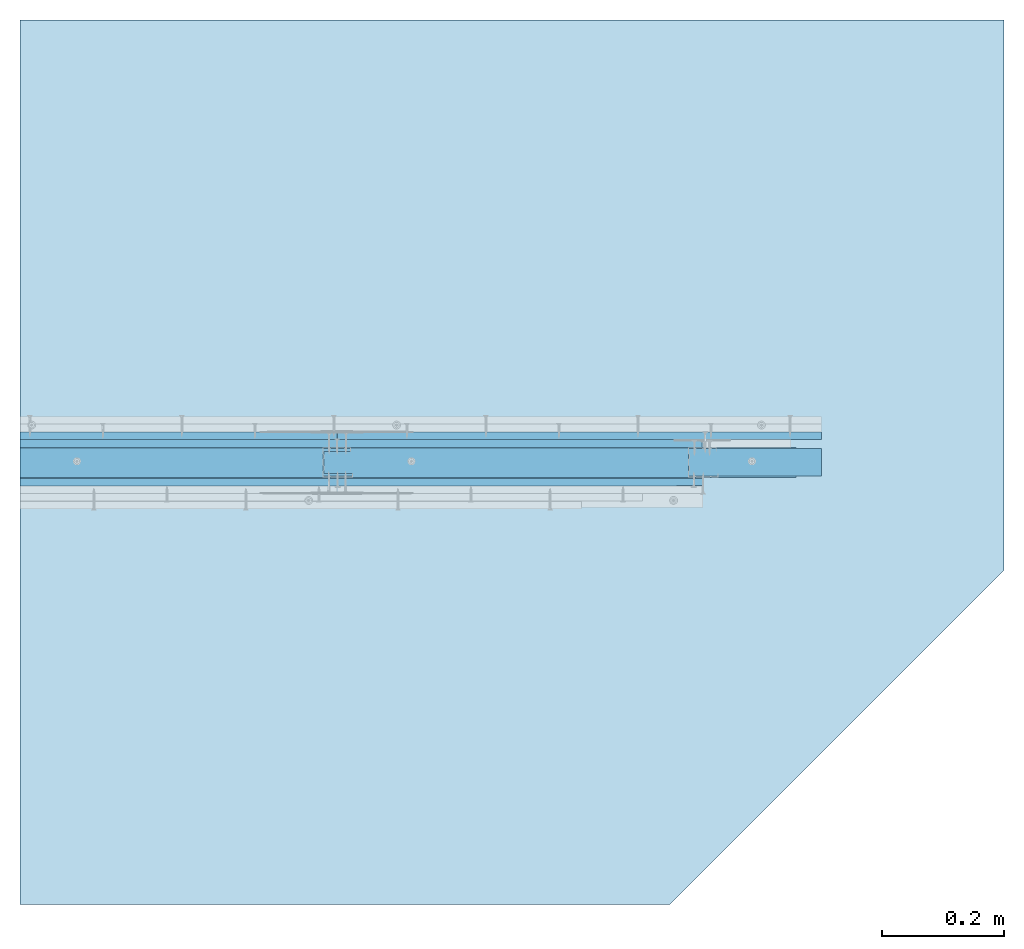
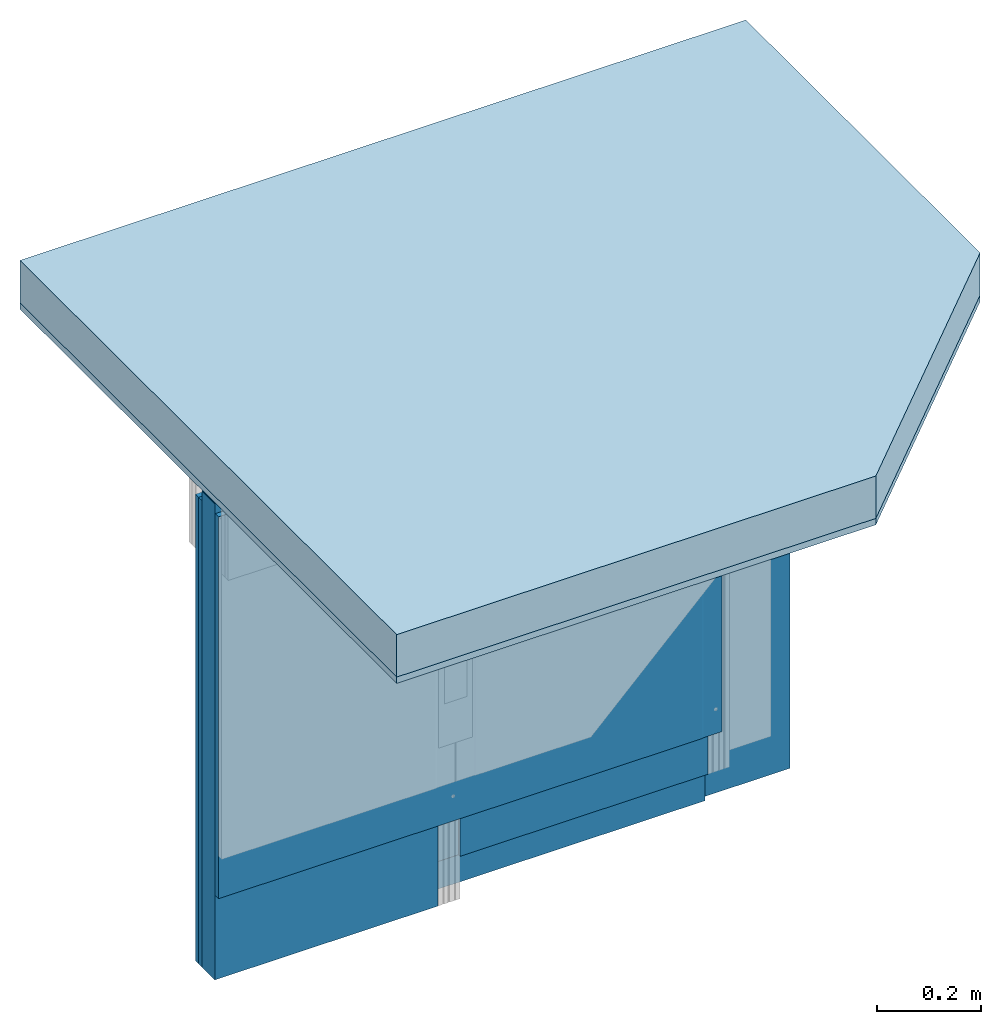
# One storey, part 1 of 60: 8 walls, 2 slabs.
"""IFC2X3 building model written with IfcOpenShell, lengths in millimetres."""

import ifcopenshell
import ifcopenshell.guid

model = None  # the IFC model being written
_history = None  # IfcOwnerHistory: only IFC2X3 demands one
_inside = {}  # id of a spatial element -> (the spatial element, [elements in it])
_under = {}  # id of a project, library or spatial element -> (it, [spatial elements below it])
_declared = {}  # id of a project -> (the project, [libraries it declares])
_typed = {}  # id of a type object -> (the type object, [elements of that type])
_made_of = {}  # id of a material, layer set ... -> (it, [elements and type objects made of it])


def new_model(schema):
    """Start an empty IFC model of exactly this schema.

    Asked for "IFC4X3", IfcOpenShell would pick the latest addendum, in which some entities
    have other attributes; the version numbers below select the first issue.
    IFC2X3 requires an IfcOwnerHistory on every rooted entity: one is made here for all.
    """
    global model, _history
    if schema == "IFC4X3":
        model = ifcopenshell.file(schema_version=(4, 3, 0, 0))
    else:
        model = ifcopenshell.file(schema=schema)
    _inside.clear()
    _under.clear()
    _declared.clear()
    _typed.clear()
    _made_of.clear()
    _history = None
    if model.schema == "IFC2X3":
        org = make("IfcOrganization", Name="unknown")
        user = make(
            "IfcPersonAndOrganization",
            ThePerson=make("IfcPerson", FamilyName="unknown"),
            TheOrganization=org,
        )
        app = make(
            "IfcApplication",
            ApplicationDeveloper=org,
            Version="unknown",
            ApplicationFullName="unknown",
            ApplicationIdentifier="unknown",
        )
        _history = make(
            "IfcOwnerHistory",
            OwningUser=user,
            OwningApplication=app,
            ChangeAction="ADDED",
            CreationDate=0,
        )
    return model


def make(cls, **values):
    """One entity of the class cls with the attributes given. An attribute that is None is left unset."""
    return model.create_entity(
        cls, **{name: value for name, value in values.items() if value is not None}
    )


def entity(cls, *values):
    """Any entity or typed value of the class cls, its attributes in the order of the schema. None: left unset."""
    e = model.create_entity(cls)
    for i, value in enumerate(values):
        if value is not None:
            e[i] = value
    return e


def rooted(cls, **values):
    """An entity with a GlobalId (a new one), such as an element, a storey or a relation."""
    return make(cls, GlobalId=ifcopenshell.guid.new(), OwnerHistory=_history, **values)


def si_unit(unit_type, name, prefix=None):
    """IfcSIUnit, for example si_unit("LENGTHUNIT", "METRE", prefix="MILLI")."""
    return make("IfcSIUnit", UnitType=unit_type, Prefix=prefix, Name=name)


def converted_unit(unit_type, name, factor, base, dimensions=None, offset=None):
    """IfcConversionBasedUnit, such as the inch: factor (a typed value) times the base unit."""
    return make(
        "IfcConversionBasedUnit"
        if offset is None
        else "IfcConversionBasedUnitWithOffset",
        ConversionOffset=offset,
        Dimensions=None
        if dimensions is None
        else entity("IfcDimensionalExponents", *dimensions),
        UnitType=unit_type,
        Name=name,
        ConversionFactor=make(
            "IfcMeasureWithUnit", ValueComponent=factor, UnitComponent=base
        ),
    )


def assignment(units):
    """IfcUnitAssignment: the units of a project."""
    return None if units is None else make("IfcUnitAssignment", Units=units)


def point(xyz):
    """IfcCartesianPoint."""
    return None if xyz is None else make("IfcCartesianPoint", Coordinates=xyz)


def direction(xyz):
    """IfcDirection."""
    return None if xyz is None else make("IfcDirection", DirectionRatios=xyz)


def frame(location, z_axis=None, x_axis=None):
    """IfcAxis2Placement3D, a coordinate frame: its origin and axes. An axis left out is left unset."""
    return make(
        "IfcAxis2Placement3D",
        Location=point(location),
        Axis=direction(z_axis),
        RefDirection=direction(x_axis),
    )


def origin():
    """The frame at (0, 0, 0) with its axes left unset."""
    return frame((0.0, 0.0, 0.0))


def origin_with_axes():
    """The frame at (0, 0, 0) with the z axis (0, 0, 1) and the x axis (1, 0, 0) written out."""
    return frame((0.0, 0.0, 0.0), z_axis=(0.0, 0.0, 1.0), x_axis=(1.0, 0.0, 0.0))


def place(relative_to, where):
    """IfcLocalPlacement: puts the frame where relative to a parent placement (None: the world)."""
    return make(
        "IfcLocalPlacement", PlacementRelTo=relative_to, RelativePlacement=where
    )


def context(
    kind, dimensions, precision=None, world=None, true_north=None, identifier=None
):
    """IfcGeometricRepresentationContext, for example the 3D "Model" context."""
    return make(
        "IfcGeometricRepresentationContext",
        ContextIdentifier=identifier,
        ContextType=kind,
        CoordinateSpaceDimension=dimensions,
        Precision=precision,
        WorldCoordinateSystem=world,
        TrueNorth=true_north,
    )


def project(units=None, contexts=None):
    """IfcProject with its units and contexts."""
    return rooted(
        "IfcProject",
        Name="project",
        RepresentationContexts=contexts,
        UnitsInContext=assignment(units),
    )


def spatial(cls, under=None, at=None, **own):
    """A site, building, storey or space (cls), placed at a placement, below another one or the project."""
    s = rooted(cls, ObjectPlacement=at, **own)
    if under is not None:
        _under.setdefault(under.id(), (under, []))[1].append(s)
    return s


def faces_of(points, faces, orient=None, outer=None):
    """IfcFace entities. A face is a list of loops; a loop is a list of indices into points, from 0.

    orient and outer hold one flag for each loop. By default every Orientation is true, the
    first loop of a face is its IfcFaceOuterBound and the others are IfcFaceBound.
    """
    made = []
    for i, loops in enumerate(faces):
        bounds = []
        for j, loop in enumerate(loops):
            is_outer = j == 0 if outer is None else outer[i][j]
            bounds.append(
                make(
                    "IfcFaceOuterBound" if is_outer else "IfcFaceBound",
                    Bound=make("IfcPolyLoop", Polygon=[points[k] for k in loop]),
                    Orientation=True if orient is None else orient[i][j],
                )
            )
        made.append(make("IfcFace", Bounds=bounds))
    return made


def faceted_brep(points, faces, orient=None, outer=None, voids=None):
    """IfcFacetedBrep: a solid bounded by flat faces; with voids (closed shells), ...WithVoids."""
    shared = [point(p) for p in points]
    hull = make("IfcClosedShell", CfsFaces=faces_of(shared, faces, orient, outer))
    if voids is None:
        return make("IfcFacetedBrep", Outer=hull)
    return make(
        "IfcFacetedBrepWithVoids",
        Outer=hull,
        Voids=[
            make(cls, CfsFaces=faces_of(shared, fs, o, b)) for cls, fs, o, b in voids
        ],
    )


def shape(context_of_items, identifier, shape_type, items):
    """IfcShapeRepresentation: the items that make up one representation, for example the "Body"."""
    return make(
        "IfcShapeRepresentation",
        ContextOfItems=context_of_items,
        RepresentationIdentifier=identifier,
        RepresentationType=shape_type,
        Items=items,
    )


def made_of(thing, what):
    """Note that an element or type object is made of a material, layer set ...; save() writes the relation."""
    if what is not None:
        _made_of.setdefault(what.id(), (what, []))[1].append(thing)
    return thing


def element(
    cls,
    number,
    at=None,
    inside=None,
    cuts=None,
    type_object=None,
    material=None,
    context=None,
    identifier="Body",
    shape_type=None,
    held_by="IfcProductDefinitionShape",
    body=None,
    shapes=None,
    **own,
):
    """One element of the class cls, such as IfcWall. Its Tag is "e" and its number.

    at: its placement. inside: the storey or other place that contains it. cuts: it is an
    opening in that element (IfcRelVoidsElement). A single representation is given by context,
    identifier, shape_type and body (its items); several are given by shapes. held_by: the class
    of the entity that holds the representations. save() writes the other relations.
    """
    e = rooted(cls, Tag="e%d" % number, ObjectPlacement=at, **own)
    if body is not None:
        shapes = [shape(context, identifier, shape_type, body)]
    if shapes is not None:
        e.Representation = make(held_by, Representations=shapes)
    if inside is not None:
        _inside.setdefault(inside.id(), (inside, []))[1].append(e)
    if cuts is not None:
        rooted(
            "IfcRelVoidsElement", RelatingBuildingElement=cuts, RelatedOpeningElement=e
        )
    if type_object is not None:
        _typed.setdefault(type_object.id(), (type_object, []))[1].append(e)
    return made_of(e, material)


def aggregate(whole, parts):
    """IfcRelAggregates: a whole, such as a stair, and the parts it consists of."""
    return rooted("IfcRelAggregates", RelatingObject=whole, RelatedObjects=parts)


def save(model, path):
    """Write the relations noted so far, then the file.

    IfcRelAggregates (storeys below a building ...), IfcRelContainedInSpatialStructure (elements
    in a storey), IfcRelDefinesByType, IfcRelAssociatesMaterial and IfcRelDeclares: one each for
    every whole, place, type object, material and project.
    """
    for whole, parts in _under.values():
        aggregate(whole, parts)
    for where, things in _inside.values():
        rooted(
            "IfcRelContainedInSpatialStructure",
            RelatedElements=things,
            RelatingStructure=where,
        )
    for kind, things in _typed.values():
        rooted("IfcRelDefinesByType", RelatedObjects=things, RelatingType=kind)
    for what, things in _made_of.values():
        rooted("IfcRelAssociatesMaterial", RelatedObjects=things, RelatingMaterial=what)
    for by, libraries in _declared.values():
        rooted("IfcRelDeclares", RelatingContext=by, RelatedDefinitions=libraries)
    model.write(path)


model = new_model("IFC2X3")

# Units and contexts
model_context = context("Model", 3, precision=1e-05, world=origin(), true_north=direction((0.0, 1.0, 0.0)))
ifc_project = project(units=[si_unit("LENGTHUNIT", "METRE", prefix="MILLI"), si_unit("AREAUNIT", "SQUARE_METRE"), si_unit("VOLUMEUNIT", "CUBIC_METRE"), converted_unit("PLANEANGLEUNIT", "DEGREE", entity("IfcPlaneAngleMeasure", 0.01745), si_unit("PLANEANGLEUNIT", "RADIAN"), dimensions=[0, 0, 0, 0, 0, 0, 0]), si_unit("SOLIDANGLEUNIT", "STERADIAN"), si_unit("MASSUNIT", "GRAM"), si_unit("TIMEUNIT", "SECOND"), si_unit("THERMODYNAMICTEMPERATUREUNIT", "DEGREE_CELSIUS"), si_unit("LUMINOUSINTENSITYUNIT", "LUMEN")], contexts=[model_context])

# Site, building, storey
site_placement = place(None, origin_with_axes())
site = spatial("IfcSite", under=ifc_project, at=site_placement, Name="Default Site", CompositionType="ELEMENT")
building_placement = place(site_placement, origin_with_axes())
building = spatial("IfcBuilding", under=site, at=building_placement, Name="Default Building", CompositionType="ELEMENT")
storey_placement = place(building_placement, origin_with_axes())
storey = spatial("IfcBuildingStorey", under=building, at=storey_placement, Name="Default Building Storey", CompositionType="ELEMENT", Elevation=0.0)

# Slabs
slab_1_placement = place(storey_placement, frame((3516.951496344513, -1290.142300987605, 1402.224461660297), z_axis=(7.620176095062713e-14, 6.858158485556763e-13, -1.0), x_axis=(1.0, 9.714451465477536e-17, 7.62017609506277e-14)))
element("IfcSlab", 1, at=slab_1_placement, inside=storey, Name="STROP", context=model_context, shape_type="Brep", body=[
    faceted_brep([(226.0891218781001, -3110.283223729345, -4.200000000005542), (-323.9108781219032, -2560.283223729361, -4.200000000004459), (-323.9108781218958, -2560.283223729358, -104.1999999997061), (226.0891218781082, -3110.283223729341, -104.199999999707), (-1391.926362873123, -2560.283223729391, -104.2000000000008), (-1391.92636287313, -2560.28322372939, -4.20000000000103), (-1391.926362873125, -4014.87455750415, -104.1999999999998), (226.0891218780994, -4014.874557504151, -104.1999999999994), (-1391.926362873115, -4014.874557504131, -4.199999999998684), (226.0891218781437, -4014.874557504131, -4.200000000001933)], [[[0, 1, 2, 3]], [[4, 2, 1, 5]], [[6, 7, 3, 2, 4]], [[8, 5, 1, 0, 9]], [[0, 3, 7, 9]], [[6, 8, 9, 7]], [[6, 4, 5, 8]]]),
])
slab_2_placement = place(storey_placement, frame((3516.95149634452, -1290.142300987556, 1302.224461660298), z_axis=(7.620176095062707e-14, 6.858158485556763e-13, -1.0), x_axis=(1.0, 9.714451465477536e-17, 7.62017609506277e-14)))
element("IfcSlab", 2, at=slab_2_placement, inside=storey, Name="TYNK", context=model_context, shape_type="Brep", body=[
    faceted_brep([(226.0891218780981, -3110.283223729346, -89.20000000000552), (-323.9108781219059, -2560.283223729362, -89.2000000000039), (-323.9108781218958, -2560.283223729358, -104.1999999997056), (226.0891218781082, -3110.283223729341, -104.1999999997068), (-1391.926362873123, -2560.283223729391, -104.2000000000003), (-1391.926362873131, -2560.283223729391, -89.20000000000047), (-1391.926362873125, -4014.87455750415, -104.1999999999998), (226.0891218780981, -4014.874557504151, -104.1999999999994), (-1391.926362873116, -4014.874557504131, -89.19999999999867), (226.0891218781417, -4014.874557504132, -89.2000000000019)], [[[0, 1, 2, 3]], [[4, 2, 1, 5]], [[6, 7, 3, 2, 4]], [[8, 5, 1, 0, 9]], [[0, 3, 7, 9]], [[6, 8, 9, 7]], [[6, 4, 5, 8]]]),
])

# Walls
wall_1_placement = place(storey_placement, frame((3247.741854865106, 5452.42414647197, 1385.418092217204), z_axis=(6.44634805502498e-14, -6.858158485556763e-13, -1.0), x_axis=(1.0, -1.14833748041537e-16, 9.007748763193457e-14)))
element("IfcWall", 3, at=wall_1_placement, inside=storey, Name="Taśma uszczelniająca piankowa RIGIPS", context=model_context, shape_type="Brep", body=[
    faceted_brep([(-1122.716721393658, 3477.783223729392, -5.000000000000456), (-1122.716721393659, 3477.862841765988, -6.00636944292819), (-1122.716721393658, 3432.691889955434, -5.864971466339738), (-1122.716721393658, 3432.783223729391, -5.000000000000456), (195.2987633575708, 3477.862841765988, -6.006369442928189), (195.2987633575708, 3477.783223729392, -5.000000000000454), (195.2987633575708, 3432.783223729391, -5.000000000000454), (195.2987633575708, 3432.691889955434, -5.864971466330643)], [[[0, 1, 2, 3]], [[4, 5, 6, 7]], [[5, 0, 3, 6]], [[6, 3, 2, 7]], [[7, 2, 1, 4]], [[4, 1, 0, 5]]]),
])
wall_2_placement = place(storey_placement, frame((3246.843862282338, 2022.140922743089, -39.13257794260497), z_axis=(0.0, 0.0, -1.0), x_axis=(-1.0, -8.049116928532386e-16, 0.0)))
element("IfcWall", 4, at=wall_2_placement, inside=storey, Name="Płyta gipsowo-kartonowa RIGIPS PRO (4PRO™)", context=model_context, shape_type="Brep", body=[
    faceted_brep([(1121.818728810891, 12.50000000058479, -305.5554579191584), (1121.818728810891, -3.609557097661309e-13, -305.5554579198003), (1121.818728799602, 3.495134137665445e-09, -1405.557039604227), (1121.818728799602, 12.50000000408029, -1405.557039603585), (44.99999999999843, 12.50000000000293, -305.5554579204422), (44.99999999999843, 12.50000000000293, -1405.557039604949), (40.99999999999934, 11.50000000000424, -305.5554579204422), (40.99999999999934, 11.50000000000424, -1405.557039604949), (0.9999999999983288, 11.5000000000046, -305.5554579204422), (0.9999999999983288, 11.5000000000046, -1405.557039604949), (0.7411809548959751, 11.46592582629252, -305.5554579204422), (0.7411809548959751, 11.46592582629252, -1405.557039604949), (0.4999999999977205, 11.3660254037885, -305.5554579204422), (0.4999999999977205, 11.3660254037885, -1405.557039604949), (0.29289321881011, 11.20710678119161, -305.5554579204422), (0.29289321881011, 11.20710678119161, -1405.557039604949), (0.1339745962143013, 11.00000000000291, -305.5554579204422), (0.1339745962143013, 11.00000000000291, -1405.557039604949), (0.03407417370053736, 10.7588190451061, -305.5554579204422), (0.03407417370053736, 10.7588190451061, -1405.557039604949), (-2.887645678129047e-12, 10.50000000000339, -305.5554579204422), (-2.887645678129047e-12, 10.50000000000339, -1405.557039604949), (0.0, 0.0, -305.5554579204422), (0.0, 0.0, -1405.557039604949)], [[[0, 1, 2, 3]], [[4, 0, 3, 5]], [[6, 4, 5, 7]], [[8, 6, 7, 9]], [[10, 8, 9, 11]], [[12, 10, 11, 13]], [[14, 12, 13, 15]], [[16, 14, 15, 17]], [[18, 16, 17, 19]], [[20, 18, 19, 21]], [[22, 20, 21, 23]], [[1, 22, 23, 2]], [[2, 23, 21, 19, 17, 15, 13, 11, 9, 7, 5, 3]], [[0, 4, 6, 8, 10, 12, 14, 16, 18, 20, 22, 1]]]),
])
wall_3_placement = place(storey_placement, frame((3207.215400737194, 5452.42414647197, 1385.418092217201), z_axis=(6.446348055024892e-14, -6.858158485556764e-13, -1.0), x_axis=(1.0, -1.14833748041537e-16, 9.00774876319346e-14)))
element("IfcWall", 5, at=wall_3_placement, inside=storey, Name="Profil RIGIPS UW 50 ULTRASTIL®", context=model_context, shape_type="Brep", body=[
    faceted_brep([(-943.956929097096, 3470.476261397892, -4.901701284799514), (-943.956929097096, 3470.287116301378, -4.783410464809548), (-943.956929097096, 3470.128902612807, -4.626130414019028), (-1082.190267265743, 3470.128902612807, -4.626130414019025), (-1082.190267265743, 3470.476261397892, -4.901701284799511), (-943.956929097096, 3470.063927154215, -4.535249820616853), (-943.956929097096, 3470.009494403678, -4.437688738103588), (-1082.190267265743, 3470.009494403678, -4.437688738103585), (-943.956929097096, 3440.279331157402, -4.783410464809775), (-943.956929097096, 3440.090186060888, -4.901701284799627), (-943.956929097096, 3439.87952304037, -4.97511570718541), (-1082.190267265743, 3439.87952304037, -4.975115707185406), (-1082.190267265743, 3440.279331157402, -4.783410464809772), (-943.9569290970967, 3440.819375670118, -2.866589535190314), (-943.9569290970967, 3441.008520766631, -2.748298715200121), (-943.9569290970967, 3441.219183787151, -2.674884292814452), (-1082.190267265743, 3441.219183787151, -2.67488429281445), (-1082.190267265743, 3440.819375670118, -2.866589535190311), (-943.9569290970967, 3469.55792669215, -2.74829871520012), (-943.9569290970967, 3469.747071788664, -2.866589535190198), (-943.9569290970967, 3469.905285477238, -3.023869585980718), (-1082.190267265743, 3469.905285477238, -3.023869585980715), (-1082.190267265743, 3469.55792669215, -2.748298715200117), (-1082.190267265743, 3479.733223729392, 35.00000000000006), (-1082.190267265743, 3480.283223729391, 35.00000000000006), (-1082.190267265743, 3480.283223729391, -4.199999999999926), (-1082.190267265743, 3480.273374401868, -4.325147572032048), (-1082.190267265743, 3480.244068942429, -4.447213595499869), (-1082.190267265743, 3480.196028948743, -4.563192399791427), (-1082.190267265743, 3480.130437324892, -4.670228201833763), (-1082.190267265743, 3480.048909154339, -4.765685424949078), (-1082.190267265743, 3479.953451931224, -4.847213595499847), (-1082.190267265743, 3479.846416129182, -4.912805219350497), (-1082.190267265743, 3479.73043732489, -4.960845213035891), (-1082.190267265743, 3479.608371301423, -4.99015067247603), (-1082.190267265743, 3479.483223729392, -4.999999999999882), (-1082.190267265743, 3470.908620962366, -4.999999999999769), (-1082.190267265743, 3470.686924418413, -4.975115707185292), (-1082.190267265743, 3469.680725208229, -3.762311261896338), (-1082.190267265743, 3469.561316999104, -3.573869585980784), (-1082.190267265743, 3469.403103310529, -3.416589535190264), (-1082.190267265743, 3469.213958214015, -3.298298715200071), (-1082.190267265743, 3469.003295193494, -3.224884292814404), (-1082.190267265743, 3468.781598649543, -3.199999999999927), (-1082.190267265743, 3441.78484880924, -3.199999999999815), (-1082.190267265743, 3441.563152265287, -3.224884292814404), (-1082.190267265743, 3441.352489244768, -3.298298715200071), (-1082.190267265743, 3441.163344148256, -3.416589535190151), (-1082.190267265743, 3441.005130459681, -3.573869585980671), (-1082.190267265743, 3440.885722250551, -3.762311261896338), (-1082.190267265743, 3440.556953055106, -4.437688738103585), (-1082.190267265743, 3440.437544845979, -4.626130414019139), (-1082.190267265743, 3439.657826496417, -4.999999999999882), (-1082.190267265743, 3431.083223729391, -4.999999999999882), (-1082.190267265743, 3430.95807615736, -4.990150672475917), (-1082.190267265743, 3430.83601013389, -4.960845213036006), (-1082.190267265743, 3430.720031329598, -4.912805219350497), (-1082.190267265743, 3430.612995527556, -4.847213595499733), (-1082.190267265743, 3430.51753830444, -4.765685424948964), (-1082.190267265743, 3430.436010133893, -4.670228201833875), (-1082.190267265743, 3430.370418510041, -4.563192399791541), (-1082.190267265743, 3430.322378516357, -4.447213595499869), (-1082.190267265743, 3430.293073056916, -4.325147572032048), (-1082.190267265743, 3430.283223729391, -4.199999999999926), (-1082.190267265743, 3430.283223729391, 35.00000000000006), (-1082.190267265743, 3430.833223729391, 35.00000000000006), (-1082.190267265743, 3430.833223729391, -4.199999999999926), (-1082.190267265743, 3430.836301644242, -4.23910861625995), (-1082.190267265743, 3430.845459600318, -4.27725424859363), (-1082.190267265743, 3430.860472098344, -4.313497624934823), (-1082.190267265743, 3430.880969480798, -4.346946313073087), (-1082.190267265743, 3430.906447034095, -4.376776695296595), (-1082.190267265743, 3430.936277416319, -4.402254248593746), (-1082.190267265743, 3430.969726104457, -4.422751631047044), (-1082.190267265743, 3431.005969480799, -4.437764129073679), (-1082.190267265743, 3431.044115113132, -4.44692208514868), (-1082.190267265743, 3431.083223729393, -4.449999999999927), (-1082.190267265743, 3439.313858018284, -4.45000000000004), (-1082.190267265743, 3439.535554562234, -4.425115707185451), (-1082.190267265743, 3439.746217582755, -4.351701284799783), (-1082.190267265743, 3439.935362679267, -4.233410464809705), (-1082.190267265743, 3440.093576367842, -4.076130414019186), (-1082.190267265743, 3440.212984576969, -3.887688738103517), (-1082.190267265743, 3440.541753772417, -3.212311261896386), (-1082.190267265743, 3440.661161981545, -3.02386958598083), (-1082.190267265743, 3441.440880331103, -2.649999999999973), (-1082.190267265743, 3469.125567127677, -2.649999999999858), (-1082.190267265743, 3469.347263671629, -2.674884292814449), (-1082.190267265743, 3470.024693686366, -3.212311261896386), (-1082.190267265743, 3470.353462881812, -3.887688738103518), (-1082.190267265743, 3470.472871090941, -4.076130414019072), (-1082.190267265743, 3470.631084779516, -4.233410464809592), (-1082.190267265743, 3470.820229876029, -4.351701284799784), (-1082.190267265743, 3471.030892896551, -4.425115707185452), (-1082.190267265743, 3471.252589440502, -4.449999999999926), (-1082.190267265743, 3479.483223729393, -4.449999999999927), (-1082.190267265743, 3479.522332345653, -4.446922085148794), (-1082.190267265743, 3479.560477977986, -4.437764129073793), (-1082.190267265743, 3479.596721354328, -4.422751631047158), (-1082.190267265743, 3479.630170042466, -4.402254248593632), (-1082.190267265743, 3479.660000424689, -4.376776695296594), (-1082.190267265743, 3479.685477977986, -4.346946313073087), (-1082.190267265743, 3479.705975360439, -4.313497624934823), (-1082.190267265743, 3479.720987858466, -4.27725424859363), (-1082.190267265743, 3479.730145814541, -4.23910861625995), (-1082.190267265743, 3479.733223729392, -4.199999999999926), (193.5273232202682, 3480.283223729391, -4.200000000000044), (193.5273232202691, 3480.283223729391, 35.0), (193.5273232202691, 3479.733223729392, 35.0), (193.5273232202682, 3479.733223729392, -4.200000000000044), (193.5273232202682, 3479.730145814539, -4.239108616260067), (193.5273232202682, 3479.720987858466, -4.277254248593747), (193.5273232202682, 3479.705975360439, -4.313497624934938), (193.5273232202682, 3479.685477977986, -4.346946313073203), (193.5273232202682, 3479.660000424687, -4.376776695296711), (193.5273232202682, 3479.630170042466, -4.402254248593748), (193.5273232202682, 3479.596721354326, -4.422751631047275), (193.5273232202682, 3479.560477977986, -4.43776412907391), (193.5273232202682, 3479.522332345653, -4.446922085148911), (193.5273232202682, 3479.483223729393, -4.450000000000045), (193.5273232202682, 3471.252589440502, -4.450000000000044), (193.5273232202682, 3471.030892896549, -4.425115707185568), (193.5273232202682, 3470.820229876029, -4.3517012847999), (193.5273232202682, 3470.631084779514, -4.233410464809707), (193.5273232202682, 3470.472871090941, -4.076130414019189), (193.5273232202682, 3470.353462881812, -3.887688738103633), (193.5273232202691, 3470.024693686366, -3.212311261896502), (193.5273232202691, 3469.905285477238, -3.023869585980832), (193.5273232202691, 3469.747071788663, -2.866589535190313), (193.5273232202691, 3469.55792669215, -2.748298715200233), (193.5273232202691, 3469.347263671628, -2.674884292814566), (193.5273232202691, 3469.125567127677, -2.649999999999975), (193.5273232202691, 3441.440880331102, -2.650000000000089), (193.5273232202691, 3441.219183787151, -2.674884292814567), (193.5273232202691, 3441.008520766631, -2.748298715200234), (193.5273232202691, 3440.819375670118, -2.866589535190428), (193.5273232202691, 3440.661161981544, -3.023869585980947), (193.5273232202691, 3440.541753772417, -3.212311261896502), (193.5273232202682, 3440.212984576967, -3.887688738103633), (193.5273232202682, 3440.093576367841, -4.076130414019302), (193.5273232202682, 3439.935362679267, -4.233410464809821), (193.5273232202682, 3439.746217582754, -4.3517012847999), (193.5273232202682, 3439.535554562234, -4.425115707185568), (193.5273232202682, 3439.313858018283, -4.450000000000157), (193.5273232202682, 3431.083223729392, -4.450000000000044), (193.5273232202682, 3431.044115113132, -4.446922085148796), (193.5273232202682, 3431.005969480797, -4.437764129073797), (193.5273232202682, 3430.969726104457, -4.422751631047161), (193.5273232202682, 3430.936277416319, -4.402254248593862), (193.5273232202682, 3430.906447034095, -4.376776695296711), (193.5273232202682, 3430.880969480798, -4.346946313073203), (193.5273232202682, 3430.860472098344, -4.313497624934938), (193.5273232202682, 3430.845459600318, -4.277254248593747), (193.5273232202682, 3430.836301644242, -4.239108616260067), (193.5273232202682, 3430.833223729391, -4.200000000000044), (193.5273232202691, 3430.833223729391, 35.0), (193.5273232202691, 3430.283223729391, 35.0), (193.5273232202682, 3430.283223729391, -4.200000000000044), (193.5273232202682, 3430.293073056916, -4.325147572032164), (193.5273232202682, 3430.322378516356, -4.447213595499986), (193.5273232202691, 3430.370418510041, -4.563192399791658), (193.5273232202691, 3430.436010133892, -4.670228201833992), (193.5273232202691, 3430.51753830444, -4.765685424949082), (193.5273232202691, 3430.612995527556, -4.84721359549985), (193.5273232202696, 3430.720031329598, -4.912805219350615), (193.5273232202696, 3430.83601013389, -4.960845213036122), (193.5273232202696, 3430.958076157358, -4.990150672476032), (193.5273232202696, 3431.083223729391, -4.999999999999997), (193.5273232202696, 3439.657826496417, -4.999999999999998), (193.5273232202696, 3439.879523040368, -4.975115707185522), (193.5273232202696, 3440.090186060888, -4.901701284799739), (193.5273232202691, 3440.279331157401, -4.783410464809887), (193.5273232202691, 3440.437544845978, -4.626130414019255), (193.5273232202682, 3440.556953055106, -4.437688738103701), (193.5273232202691, 3440.88572225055, -3.762311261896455), (193.5273232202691, 3441.005130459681, -3.573869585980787), (193.5273232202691, 3441.163344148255, -3.416589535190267), (193.5273232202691, 3441.352489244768, -3.298298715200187), (193.5273232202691, 3441.563152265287, -3.22488429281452), (193.5273232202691, 3441.78484880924, -3.199999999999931), (193.5273232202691, 3468.781598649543, -3.200000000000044), (193.5273232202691, 3469.003295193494, -3.22488429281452), (193.5273232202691, 3469.213958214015, -3.298298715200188), (193.5273232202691, 3469.403103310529, -3.416589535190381), (193.5273232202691, 3469.561316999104, -3.5738695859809), (193.5273232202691, 3469.680725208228, -3.762311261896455), (193.5273232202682, 3470.009494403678, -4.437688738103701), (193.5273232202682, 3470.063927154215, -4.535249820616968), (193.5273232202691, 3470.128902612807, -4.626130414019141), (193.5273232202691, 3470.287116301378, -4.783410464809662), (193.5273232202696, 3470.476261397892, -4.901701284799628), (193.5273232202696, 3470.686924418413, -4.975115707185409), (193.5273232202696, 3470.908620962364, -4.999999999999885), (193.5273232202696, 3479.483223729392, -4.999999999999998), (193.5273232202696, 3479.608371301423, -4.990150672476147), (193.5273232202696, 3479.730437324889, -4.960845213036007), (193.5273232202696, 3479.846416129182, -4.912805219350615), (193.5273232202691, 3479.953451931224, -4.847213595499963), (193.5273232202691, 3480.048909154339, -4.765685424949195), (193.5273232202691, 3480.130437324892, -4.670228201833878), (193.5273232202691, 3480.196028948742, -4.563192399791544), (193.5273232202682, 3480.244068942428, -4.447213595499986), (193.5273232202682, 3480.273374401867, -4.325147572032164)], [[[0, 1, 2, 3, 4]], [[2, 5, 6, 7, 3]], [[8, 9, 10, 11, 12]], [[13, 14, 15, 16, 17]], [[18, 19, 20, 21, 22]], [[23, 24, 25, 26, 27, 28, 29, 30, 31, 32, 33, 34, 35, 36, 37, 4, 3, 7, 38, 39, 40, 41, 42, 43, 44, 45, 46, 47, 48, 49, 50, 51, 12, 11, 52, 53, 54, 55, 56, 57, 58, 59, 60, 61, 62, 63, 64, 65, 66, 67, 68, 69, 70, 71, 72, 73, 74, 75, 76, 77, 78, 79, 80, 81, 82, 83, 84, 17, 16, 85, 86, 87, 22, 21, 88, 89, 90, 91, 92, 93, 94, 95, 96, 97, 98, 99, 100, 101, 102, 103, 104, 105]], [[106, 107, 108, 109, 110, 111, 112, 113, 114, 115, 116, 117, 118, 119, 120, 121, 122, 123, 124, 125, 126, 127, 128, 129, 130, 131, 132, 133, 134, 135, 136, 137, 138, 139, 140, 141, 142, 143, 144, 145, 146, 147, 148, 149, 150, 151, 152, 153, 154, 155, 156, 157, 158, 159, 160, 161, 162, 163, 164, 165, 166, 167, 168, 169, 170, 171, 172, 173, 174, 175, 176, 177, 178, 179, 180, 181, 182, 183, 184, 185, 186, 187, 188, 189, 190, 191, 192, 193, 194, 195, 196, 197, 198, 199, 200, 201, 202]], [[63, 157, 156, 64]], [[64, 156, 155, 65]], [[65, 155, 154, 66]], [[144, 76, 75, 145]], [[74, 146, 145, 75]], [[73, 147, 146, 74]], [[147, 73, 72, 148]], [[71, 149, 148, 72]], [[149, 71, 70, 150]], [[69, 151, 150, 70]], [[68, 152, 151, 69]], [[152, 68, 67, 153]], [[66, 154, 153, 67]], [[76, 144, 143, 77]], [[81, 139, 138, 82]], [[80, 140, 139, 81]], [[79, 141, 140, 80]], [[143, 142, 78, 77]], [[78, 142, 141, 79]], [[82, 138, 137, 83]], [[15, 133, 132, 85, 16]], [[14, 134, 133, 15]], [[13, 135, 134, 14]], [[84, 136, 135, 13, 17]], [[137, 136, 84, 83]], [[85, 132, 131, 86]], [[20, 127, 126, 88, 21]], [[19, 128, 127, 20]], [[18, 129, 128, 19]], [[87, 130, 129, 18, 22]], [[131, 130, 87, 86]], [[88, 126, 125, 89]], [[93, 121, 120, 94]], [[92, 122, 121, 93]], [[91, 123, 122, 92]], [[125, 124, 90, 89]], [[90, 124, 123, 91]], [[94, 120, 119, 95]], [[109, 105, 104, 110]], [[103, 111, 110, 104]], [[102, 112, 111, 103]], [[112, 102, 101, 113]], [[100, 114, 113, 101]], [[114, 100, 99, 115]], [[98, 116, 115, 99]], [[97, 117, 116, 98]], [[117, 97, 96, 118]], [[95, 119, 118, 96]], [[105, 109, 108, 23]], [[23, 108, 107, 24]], [[24, 107, 106, 25]], [[33, 195, 194, 34]], [[194, 193, 35, 34]], [[32, 196, 195, 33]], [[30, 198, 197, 31]], [[197, 196, 32, 31]], [[28, 200, 199, 29]], [[199, 198, 30, 29]], [[27, 201, 200, 28]], [[25, 106, 202, 26]], [[202, 201, 27, 26]], [[35, 193, 192, 36]], [[5, 2, 188, 187]], [[187, 186, 6, 5]], [[1, 189, 188, 2]], [[0, 190, 189, 1]], [[37, 191, 190, 0, 4]], [[192, 191, 37, 36]], [[6, 186, 185, 38, 7]], [[42, 181, 180, 43]], [[41, 182, 181, 42]], [[40, 183, 182, 41]], [[185, 184, 39, 38]], [[39, 184, 183, 40]], [[43, 180, 179, 44]], [[48, 175, 174, 49]], [[47, 176, 175, 48]], [[46, 177, 176, 47]], [[179, 178, 45, 44]], [[45, 178, 177, 46]], [[49, 174, 173, 50]], [[10, 169, 168, 52, 11]], [[9, 170, 169, 10]], [[8, 171, 170, 9]], [[51, 172, 171, 8, 12]], [[173, 172, 51, 50]], [[52, 168, 167, 53]], [[61, 159, 158, 62]], [[158, 157, 63, 62]], [[60, 160, 159, 61]], [[58, 162, 161, 59]], [[161, 160, 60, 59]], [[56, 164, 163, 57]], [[163, 162, 58, 57]], [[55, 165, 164, 56]], [[53, 167, 166, 54]], [[166, 165, 55, 54]]]),
])
wall_4_placement = place(storey_placement, frame((2786.490947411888, 5452.42414647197, 1384.954897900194), z_axis=(0.0, 0.0, -1.0), x_axis=(1.0, 0.0, 0.0)))
element("IfcWall", 6, at=wall_4_placement, inside=storey, Name="Wełna mineralna szklana lub skalna ISOVER", context=model_context, shape_type="Brep", body=[
    faceted_brep([(-161.2958819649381, 3473.633223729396, -3.113194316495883), (-161.2958819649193, 3473.633223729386, 1018.532017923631), (-114.6214102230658, 3473.633223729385, 1018.532017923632), (-114.6214102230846, 3473.633223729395, -3.113194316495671), (-114.6214102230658, 3479.633223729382, 1018.532017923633), (-114.6214102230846, 3479.633223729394, -3.113194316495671), (-161.2958819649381, 3436.833223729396, -3.113194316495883), (-161.2958819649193, 3436.833223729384, 1018.532017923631), (-117.6214102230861, 3436.833223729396, -3.113194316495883), (-117.6214102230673, 3436.833223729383, 1018.532017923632), (-117.6214102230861, 3431.283223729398, -3.113194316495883), (437.5658080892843, 3431.283223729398, -3.113194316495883), (437.5658080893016, 3431.283223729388, 1018.532017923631), (-117.6214102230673, 3431.283223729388, 1018.532017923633), (437.5658080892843, 3479.633223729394, -3.113194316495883), (437.5658080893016, 3479.633223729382, 1018.532017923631)], [[[0, 1, 2, 3]], [[3, 2, 4, 5]], [[1, 0, 6, 7]], [[7, 6, 8, 9]], [[10, 11, 12, 13]], [[9, 8, 10, 13]], [[3, 5, 14, 11, 10, 8, 6, 0]], [[4, 15, 14, 5]], [[15, 4, 2, 1, 7, 9, 13, 12]], [[14, 15, 12, 11]]]),
])
wall_5_placement = place(storey_placement, frame((2172.059826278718, 5452.42414647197, 1385.090191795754), z_axis=(0.0, 0.0, -1.0), x_axis=(1.0, 0.0, 0.0)))
element("IfcWall", 7, at=wall_5_placement, inside=storey, Name="Wełna mineralna szklana lub skalna ISOVER", context=model_context, shape_type="Brep", body=[
    faceted_brep([(-47.03469280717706, 3431.283223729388, 1118.667311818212), (-47.0346928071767, 3479.633223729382, 1118.667311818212), (-47.03469280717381, 3479.633223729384, -2.977900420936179), (-47.03469280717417, 3431.283223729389, -2.977900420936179), (450.8097109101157, 3431.283223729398, -2.977900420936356), (450.8097109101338, 3431.283223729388, 1118.667311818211), (450.8097109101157, 3479.633223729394, -2.977900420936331), (450.8097109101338, 3479.633223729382, 1118.667311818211)], [[[0, 1, 2, 3]], [[3, 4, 5, 0]], [[2, 6, 4, 3]], [[2, 1, 7, 6]], [[0, 5, 7, 1]], [[6, 7, 5, 4]]]),
])
wall_6_placement = place(storey_placement, frame((2048.429648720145, 1971.180077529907, 216.4228799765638), z_axis=(0.0, 0.0, -1.0), x_axis=(1.0, 0.0, 0.0)))
element("IfcWall", 8, at=wall_6_placement, inside=storey, Name="Płyta gipsowo-kartonowa RIGIPS PRO (4PRO™)", context=model_context, shape_type="Brep", body=[
    faceted_brep([(76.59548475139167, 0.0, -249.9999999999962), (76.59548475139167, 12.50000000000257, -249.9999999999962), (76.59548475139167, 12.50000000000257, -1150.001581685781), (76.59548475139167, 0.0, -1150.001581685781), (1200.0, 0.0, -249.9999999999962), (1200.000000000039, 10.49999999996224, -249.9999999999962), (1199.965925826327, 10.75881904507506, -249.9999999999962), (1199.866025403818, 10.99999999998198, -249.9999999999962), (1199.707106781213, 11.20710678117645, -249.9999999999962), (1199.50000000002, 11.36602540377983, -249.9999999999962), (1199.258819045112, 11.46592582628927, -249.9999999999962), (1199.0, 11.50000000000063, -249.9999999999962), (1158.999999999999, 11.50000000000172, -249.9999999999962), (1155.000000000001, 12.49999999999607, -249.9999999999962), (1199.965925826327, 10.75881904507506, -1150.001581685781), (1199.866025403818, 10.99999999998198, -1150.001581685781), (1199.707106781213, 11.20710678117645, -1150.001581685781), (1199.50000000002, 11.36602540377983, -1150.001581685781), (1199.258819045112, 11.46592582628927, -1150.001581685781), (1199.0, 11.50000000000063, -1150.001581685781), (1158.999999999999, 11.50000000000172, -1150.001581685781), (1155.000000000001, 12.49999999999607, -1150.001581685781), (1200.0, 0.0, -1150.001581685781), (1200.000000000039, 10.49999999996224, -1150.001581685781)], [[[0, 1, 2, 3]], [[0, 4, 5, 6, 7, 8, 9, 10, 11, 12, 13, 1]], [[7, 6, 14, 15]], [[8, 7, 15, 16]], [[9, 8, 16, 17]], [[10, 9, 17, 18]], [[11, 10, 18, 19]], [[12, 11, 19, 20]], [[13, 12, 20, 21]], [[2, 1, 13, 21]], [[3, 22, 4, 0]], [[5, 4, 22, 23]], [[6, 5, 23, 14]], [[14, 23, 22, 3, 2, 21, 20, 19, 18, 17, 16, 15]]]),
])
wall_7_placement = place(storey_placement, frame((2647.429648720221, 2034.640922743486, 316.4228799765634), z_axis=(0.0, 0.0, -1.0), x_axis=(1.0, 0.0, 0.0)))
element("IfcWall", 9, at=wall_7_placement, inside=storey, Name="Płyta gipsowo-kartonowa RIGIPS PRO (4PRO™)", context=model_context, shape_type="Brep", body=[
    faceted_brep([(795.6109695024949, -12.49999999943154, 49.99999999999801), (795.6109695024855, 5.40711653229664e-10, 49.99999999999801), (795.6109695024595, 5.371020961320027e-10, -1050.001581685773), (795.6109695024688, -12.49999999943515, -1050.001581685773), (44.99999999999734, -12.50000000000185, 50.00000000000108), (40.99999999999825, -11.50000000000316, 50.00000000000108), (0.9999999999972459, -11.50000000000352, 50.00000000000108), (0.7411809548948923, -11.46592582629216, 50.00000000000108), (0.4999999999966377, -11.36602540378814, 50.00000000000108), (0.2928932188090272, -11.20710678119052, 50.00000000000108), (0.1339745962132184, -11.00000000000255, 50.00000000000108), (0.0340741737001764, -10.75881904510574, 50.00000000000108), (-3.248601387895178e-12, -10.50000000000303, 50.00000000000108), (-1.082867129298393e-12, 3.609557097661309e-13, 50.00000000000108), (44.99999999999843, -12.50000000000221, -1050.001581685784), (40.99999999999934, -11.50000000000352, -1050.001581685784), (0.9999999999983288, -11.50000000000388, -1050.001581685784), (0.7411809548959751, -11.46592582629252, -1050.001581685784), (0.4999999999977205, -11.3660254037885, -1050.001581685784), (0.29289321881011, -11.20710678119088, -1050.001581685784), (0.1339745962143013, -11.00000000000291, -1050.001581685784), (0.03407417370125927, -10.7588190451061, -1050.001581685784), (-2.165734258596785e-12, -10.50000000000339, -1050.001581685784), (0.0, 0.0, -1050.001581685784)], [[[0, 1, 2, 3]], [[0, 4, 5, 6, 7, 8, 9, 10, 11, 12, 13, 1]], [[3, 14, 4, 0]], [[5, 4, 14, 15]], [[6, 5, 15, 16]], [[7, 6, 16, 17]], [[8, 7, 17, 18]], [[9, 8, 18, 19]], [[10, 9, 19, 20]], [[11, 10, 20, 21]], [[12, 11, 21, 22]], [[13, 12, 22, 23]], [[2, 1, 13, 23]], [[14, 3, 2, 23, 22, 21, 20, 19, 18, 17, 16, 15]]]),
])
wall_8_placement = place(storey_placement, frame((2646.429648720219, 2034.640922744, 316.4228799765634), z_axis=(0.0, 0.0, -1.0), x_axis=(-1.0, 0.0, 0.0)))
element("IfcWall", 10, at=wall_8_placement, inside=storey, Name="Płyta gipsowo-kartonowa RIGIPS PRO (4PRO™)", context=model_context, shape_type="Brep", body=[
    faceted_brep([(521.4045152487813, 12.4999999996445, 50.00000000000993), (521.4045152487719, -3.277477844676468e-10, 50.00000000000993), (521.404515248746, -3.241382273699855e-10, -1050.001581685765), (521.4045152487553, 12.49999999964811, -1050.001581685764), (44.99999999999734, 12.50000000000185, 50.00000000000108), (40.99999999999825, 11.50000000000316, 50.00000000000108), (0.9999999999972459, 11.50000000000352, 50.00000000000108), (0.7411809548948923, 11.46592582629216, 50.00000000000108), (0.4999999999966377, 11.36602540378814, 50.00000000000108), (0.2928932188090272, 11.20710678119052, 50.00000000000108), (0.1339745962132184, 11.00000000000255, 50.00000000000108), (0.0340741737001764, 10.75881904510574, 50.00000000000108), (-3.248601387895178e-12, 10.50000000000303, 50.00000000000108), (-1.082867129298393e-12, -3.609557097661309e-13, 50.00000000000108), (44.99999999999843, 12.50000000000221, -1050.001581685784), (40.99999999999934, 11.50000000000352, -1050.001581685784), (0.9999999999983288, 11.50000000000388, -1050.001581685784), (0.7411809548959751, 11.46592582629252, -1050.001581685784), (0.4999999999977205, 11.3660254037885, -1050.001581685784), (0.29289321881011, 11.20710678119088, -1050.001581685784), (0.1339745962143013, 11.00000000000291, -1050.001581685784), (0.03407417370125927, 10.7588190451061, -1050.001581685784), (-2.165734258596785e-12, 10.50000000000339, -1050.001581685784), (0.0, 0.0, -1050.001581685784)], [[[0, 1, 2, 3]], [[0, 4, 5, 6, 7, 8, 9, 10, 11, 12, 13, 1]], [[3, 14, 4, 0]], [[5, 4, 14, 15]], [[6, 5, 15, 16]], [[7, 6, 16, 17]], [[8, 7, 17, 18]], [[9, 8, 18, 19]], [[10, 9, 19, 20]], [[11, 10, 20, 21]], [[12, 11, 21, 22]], [[13, 12, 22, 23]], [[2, 1, 13, 23]], [[14, 3, 2, 23, 22, 21, 20, 19, 18, 17, 16, 15]]]),
])

save(model, "model.ifc")
